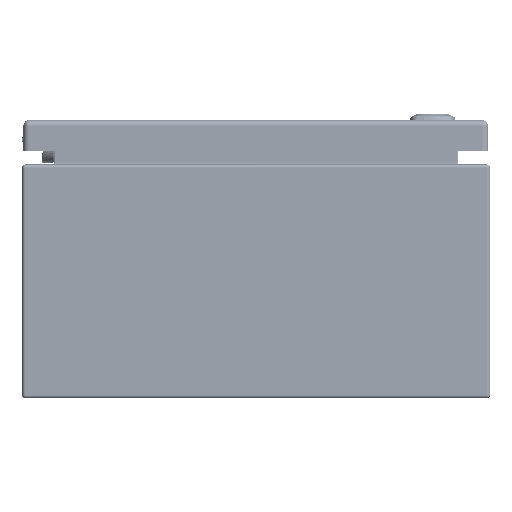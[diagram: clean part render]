
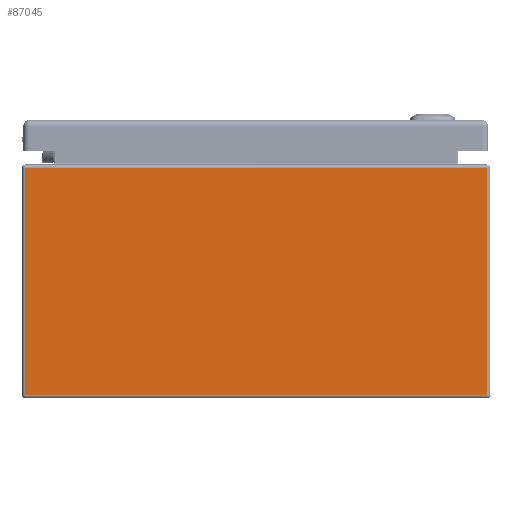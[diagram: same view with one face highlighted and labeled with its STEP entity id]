
A CAD part, front view. The second image highlights one B-rep face of the part: STEP entity #87045.
In plain terms, the highlighted planar face has unit normal (0, -1, 0).
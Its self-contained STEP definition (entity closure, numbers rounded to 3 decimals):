
#7684=LINE('',#121019,#13895);
#7691=LINE('',#121034,#13902);
#7693=LINE('',#121041,#13904);
#7695=LINE('',#121050,#13906);
#13895=VECTOR('',#100627,0.394);
#13902=VECTOR('',#100640,0.394);
#13904=VECTOR('',#100648,0.394);
#13906=VECTOR('',#100660,0.394);
#21393=FACE_OUTER_BOUND('',#26684,.T.);
#26684=EDGE_LOOP('',(#57823,#57824,#57825,#57826));
#35077=VERTEX_POINT('',#120989);
#35084=VERTEX_POINT('',#121015);
#35089=VERTEX_POINT('',#121033);
#35091=VERTEX_POINT('',#121039);
#43897=EDGE_CURVE('',#35077,#35084,#7684,.T.);
#43904=EDGE_CURVE('',#35084,#35089,#7691,.T.);
#43908=EDGE_CURVE('',#35091,#35077,#7693,.T.);
#43913=EDGE_CURVE('',#35091,#35089,#7695,.T.);
#57823=ORIENTED_EDGE('',*,*,#43897,.F.);
#57824=ORIENTED_EDGE('',*,*,#43908,.F.);
#57825=ORIENTED_EDGE('',*,*,#43913,.T.);
#57826=ORIENTED_EDGE('',*,*,#43904,.F.);
#84948=PLANE('',#93413);
#87045=ADVANCED_FACE('',(#21393),#84948,.F.);
#93413=AXIS2_PLACEMENT_3D('',#121061,#100674,#100675);
#100627=DIRECTION('',(1.,0.,0.));
#100640=DIRECTION('',(0.,0.,-1.));
#100648=DIRECTION('',(0.,0.,1.));
#100660=DIRECTION('',(1.,0.,0.));
#100674=DIRECTION('center_axis',(0.,1.,0.));
#100675=DIRECTION('ref_axis',(0.,0.,1.));
#120989=CARTESIAN_POINT('',(-5.916,-12.,5.916));
#121015=CARTESIAN_POINT('',(5.916,-12.,5.916));
#121019=CARTESIAN_POINT('',(2.979,-12.,5.916));
#121033=CARTESIAN_POINT('',(5.916,-12.,0.084));
#121034=CARTESIAN_POINT('',(5.916,-12.,3.));
#121039=CARTESIAN_POINT('',(-5.916,-12.,0.084));
#121041=CARTESIAN_POINT('',(-5.916,-12.,3.));
#121050=CARTESIAN_POINT('',(-2.958,-12.,0.084));
#121061=CARTESIAN_POINT('Origin',(0.,-12.,3.));
